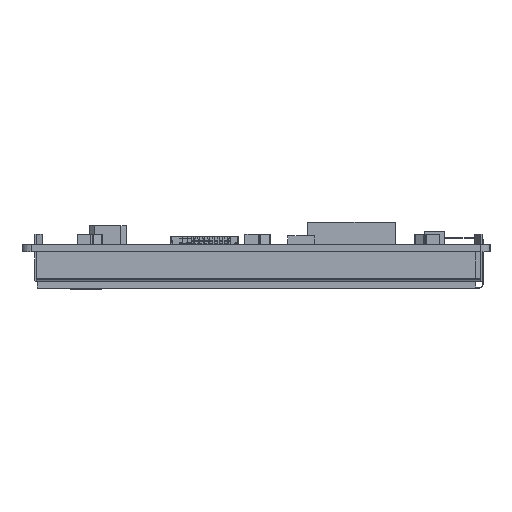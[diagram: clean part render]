
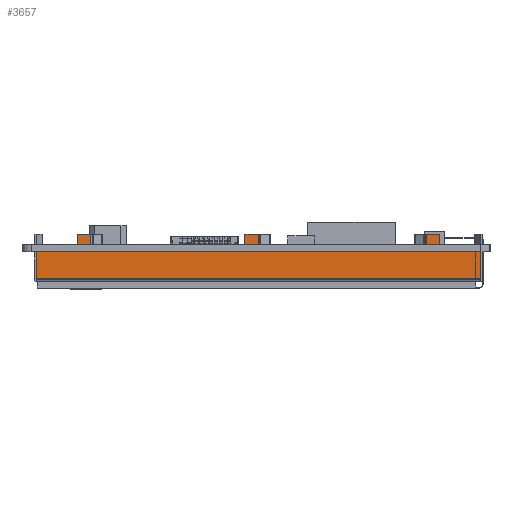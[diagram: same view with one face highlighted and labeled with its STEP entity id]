
A CAD part, left-side view. The second image highlights one B-rep face of the part: STEP entity #3657.
In plain terms, the highlighted planar face has unit normal (-1, 0, 0).
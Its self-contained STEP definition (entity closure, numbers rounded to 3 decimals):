
#3657=ADVANCED_FACE('',(#6111),#4778,.F.);
#4778=PLANE('',#30346);
#6111=FACE_OUTER_BOUND('',#7572,.T.);
#7572=EDGE_LOOP('',(#14046,#14047,#14048,#14049,#14050,#14051,#14052,#14053,
#14054,#14055,#14056,#14057,#14058,#14059,#14060,#14061,#14062,#14063,#14064));
#14046=ORIENTED_EDGE('',*,*,#21312,.T.);
#14047=ORIENTED_EDGE('',*,*,#21323,.T.);
#14048=ORIENTED_EDGE('',*,*,#21324,.F.);
#14049=ORIENTED_EDGE('',*,*,#21325,.T.);
#14050=ORIENTED_EDGE('',*,*,#21326,.F.);
#14051=ORIENTED_EDGE('',*,*,#21310,.T.);
#14052=ORIENTED_EDGE('',*,*,#21327,.T.);
#14053=ORIENTED_EDGE('',*,*,#21328,.F.);
#14054=ORIENTED_EDGE('',*,*,#21329,.F.);
#14055=ORIENTED_EDGE('',*,*,#21330,.T.);
#14056=ORIENTED_EDGE('',*,*,#21318,.T.);
#14057=ORIENTED_EDGE('',*,*,#21331,.T.);
#14058=ORIENTED_EDGE('',*,*,#21332,.F.);
#14059=ORIENTED_EDGE('',*,*,#21333,.F.);
#14060=ORIENTED_EDGE('',*,*,#21334,.T.);
#14061=ORIENTED_EDGE('',*,*,#21322,.T.);
#14062=ORIENTED_EDGE('',*,*,#21335,.F.);
#14063=ORIENTED_EDGE('',*,*,#21336,.F.);
#14064=ORIENTED_EDGE('',*,*,#21337,.T.);
#17697=VERTEX_POINT('',#44142);
#17699=VERTEX_POINT('',#44146);
#17700=VERTEX_POINT('',#44150);
#17702=VERTEX_POINT('',#44153);
#17705=VERTEX_POINT('',#44160);
#17707=VERTEX_POINT('',#44164);
#17709=VERTEX_POINT('',#44169);
#17711=VERTEX_POINT('',#44173);
#17712=VERTEX_POINT('',#44177);
#17713=VERTEX_POINT('',#44179);
#17714=VERTEX_POINT('',#44181);
#17715=VERTEX_POINT('',#44184);
#17716=VERTEX_POINT('',#44186);
#17717=VERTEX_POINT('',#44188);
#17718=VERTEX_POINT('',#44191);
#17719=VERTEX_POINT('',#44193);
#17720=VERTEX_POINT('',#44195);
#17721=VERTEX_POINT('',#44198);
#17722=VERTEX_POINT('',#44200);
#21310=EDGE_CURVE('',#17697,#17699,#24684,.T.);
#21312=EDGE_CURVE('',#17702,#17700,#24686,.T.);
#21318=EDGE_CURVE('',#17705,#17707,#24692,.T.);
#21322=EDGE_CURVE('',#17709,#17711,#24696,.T.);
#21323=EDGE_CURVE('',#17700,#17712,#24697,.T.);
#21324=EDGE_CURVE('',#17713,#17712,#24698,.T.);
#21325=EDGE_CURVE('',#17713,#17714,#24699,.T.);
#21326=EDGE_CURVE('',#17697,#17714,#24700,.T.);
#21327=EDGE_CURVE('',#17699,#17715,#24701,.T.);
#21328=EDGE_CURVE('',#17716,#17715,#24702,.T.);
#21329=EDGE_CURVE('',#17717,#17716,#24703,.T.);
#21330=EDGE_CURVE('',#17717,#17705,#24704,.T.);
#21331=EDGE_CURVE('',#17707,#17718,#24705,.T.);
#21332=EDGE_CURVE('',#17719,#17718,#24706,.T.);
#21333=EDGE_CURVE('',#17720,#17719,#24707,.T.);
#21334=EDGE_CURVE('',#17720,#17709,#24708,.T.);
#21335=EDGE_CURVE('',#17721,#17711,#24709,.T.);
#21336=EDGE_CURVE('',#17722,#17721,#24710,.T.);
#21337=EDGE_CURVE('',#17722,#17702,#24711,.T.);
#24684=LINE('',#44147,#27985);
#24686=LINE('',#44152,#27987);
#24692=LINE('',#44165,#27993);
#24696=LINE('',#44174,#27997);
#24697=LINE('',#44176,#27998);
#24698=LINE('',#44178,#27999);
#24699=LINE('',#44180,#28000);
#24700=LINE('',#44182,#28001);
#24701=LINE('',#44183,#28002);
#24702=LINE('',#44185,#28003);
#24703=LINE('',#44187,#28004);
#24704=LINE('',#44189,#28005);
#24705=LINE('',#44190,#28006);
#24706=LINE('',#44192,#28007);
#24707=LINE('',#44194,#28008);
#24708=LINE('',#44196,#28009);
#24709=LINE('',#44197,#28010);
#24710=LINE('',#44199,#28011);
#24711=LINE('',#44201,#28012);
#27985=VECTOR('',#36463,1.);
#27987=VECTOR('',#36467,1.);
#27993=VECTOR('',#36475,1.);
#27997=VECTOR('',#36481,1.);
#27998=VECTOR('',#36484,1.);
#27999=VECTOR('',#36485,1.);
#28000=VECTOR('',#36486,1.);
#28001=VECTOR('',#36487,1.);
#28002=VECTOR('',#36488,1.);
#28003=VECTOR('',#36489,1.);
#28004=VECTOR('',#36490,1.);
#28005=VECTOR('',#36491,1.);
#28006=VECTOR('',#36492,1.);
#28007=VECTOR('',#36493,1.);
#28008=VECTOR('',#36494,1.);
#28009=VECTOR('',#36495,1.);
#28010=VECTOR('',#36496,1.);
#28011=VECTOR('',#36497,1.);
#28012=VECTOR('',#36498,1.);
#30346=AXIS2_PLACEMENT_3D('',#44202,#36499,#36500);
#36463=DIRECTION('',(0.,1.,0.));
#36467=DIRECTION('',(0.,1.,0.));
#36475=DIRECTION('',(0.,1.,0.));
#36481=DIRECTION('',(0.,1.,0.));
#36484=DIRECTION('',(0.,0.,1.));
#36485=DIRECTION('',(0.,-1.,0.));
#36486=DIRECTION('',(0.,0.,-1.));
#36487=DIRECTION('',(0.,0.,1.));
#36488=DIRECTION('',(0.,0.,1.));
#36489=DIRECTION('',(0.,0.,-1.));
#36490=DIRECTION('',(0.,-1.,0.));
#36491=DIRECTION('',(0.,0.,-1.));
#36492=DIRECTION('',(0.,0.,1.));
#36493=DIRECTION('',(0.,0.,-1.));
#36494=DIRECTION('',(0.,-1.,0.));
#36495=DIRECTION('',(0.,0.,-1.));
#36496=DIRECTION('',(0.,0.,1.));
#36497=DIRECTION('',(0.,1.,0.));
#36498=DIRECTION('',(0.,0.,1.));
#36499=DIRECTION('',(1.,0.,0.));
#36500=DIRECTION('',(0.,-1.,0.));
#44142=CARTESIAN_POINT('',(435.624,-41.014,-1.6));
#44146=CARTESIAN_POINT('',(435.624,-3.188,-1.6));
#44147=CARTESIAN_POINT('',(435.624,-53.245,-1.6));
#44150=CARTESIAN_POINT('',(435.624,-44.038,-1.6));
#44152=CARTESIAN_POINT('',(435.624,-53.245,-1.6));
#44153=CARTESIAN_POINT('',(435.624,-53.245,-1.6));
#44160=CARTESIAN_POINT('',(435.624,-0.18,-1.6));
#44164=CARTESIAN_POINT('',(435.624,34.5,-1.6));
#44165=CARTESIAN_POINT('',(435.624,-53.245,-1.6));
#44169=CARTESIAN_POINT('',(435.624,37.54,-1.6));
#44173=CARTESIAN_POINT('',(435.624,46.775,-1.6));
#44174=CARTESIAN_POINT('',(435.624,-53.245,-1.6));
#44176=CARTESIAN_POINT('',(435.624,-44.038,-1.6));
#44177=CARTESIAN_POINT('',(435.624,-44.038,2.4));
#44178=CARTESIAN_POINT('',(435.624,-41.014,2.4));
#44179=CARTESIAN_POINT('',(435.624,-41.014,2.4));
#44180=CARTESIAN_POINT('',(435.624,-41.014,2.4));
#44181=CARTESIAN_POINT('',(435.624,-41.014,0.));
#44182=CARTESIAN_POINT('',(435.624,-41.014,-1.6));
#44183=CARTESIAN_POINT('',(435.624,-3.188,-1.6));
#44184=CARTESIAN_POINT('',(435.624,-3.188,0.));
#44185=CARTESIAN_POINT('',(435.624,-3.188,2.4));
#44186=CARTESIAN_POINT('',(435.624,-3.188,2.4));
#44187=CARTESIAN_POINT('',(435.624,-0.18,2.4));
#44188=CARTESIAN_POINT('',(435.624,-0.18,2.4));
#44189=CARTESIAN_POINT('',(435.624,-0.18,2.4));
#44190=CARTESIAN_POINT('',(435.624,34.5,-1.6));
#44191=CARTESIAN_POINT('',(435.624,34.5,0.));
#44192=CARTESIAN_POINT('',(435.624,34.5,2.4));
#44193=CARTESIAN_POINT('',(435.624,34.5,2.4));
#44194=CARTESIAN_POINT('',(435.624,37.54,2.4));
#44195=CARTESIAN_POINT('',(435.624,37.54,2.4));
#44196=CARTESIAN_POINT('',(435.624,37.54,2.4));
#44197=CARTESIAN_POINT('',(435.624,46.775,-7.9));
#44198=CARTESIAN_POINT('',(435.624,46.775,-7.9));
#44199=CARTESIAN_POINT('',(435.624,-53.245,-7.9));
#44200=CARTESIAN_POINT('',(435.624,-53.245,-7.9));
#44201=CARTESIAN_POINT('',(435.624,-53.245,-7.9));
#44202=CARTESIAN_POINT('',(435.624,-53.245,-7.9));
